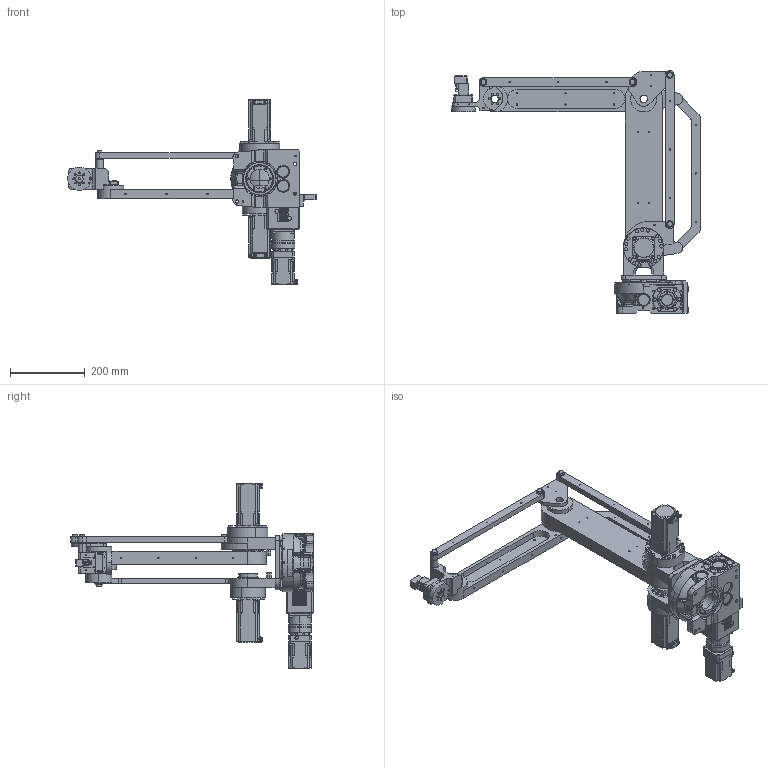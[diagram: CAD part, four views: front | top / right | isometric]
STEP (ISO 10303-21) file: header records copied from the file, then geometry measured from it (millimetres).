
FILE_DESCRIPTION (( 'STEP AP203' ), '1' );
FILE_NAME ('OVR4088K5-V.STEP', '2024-05-24T06:08:38', ( '' ), ( '' ), 'SwSTEP 2.0', 'SolidWorks 2023', '' );
FILE_SCHEMA (( 'CONFIG_CONTROL_DESIGN' ));
Length unit declared in the file: millimetre
Products named in the file (1): OVR4088K5-V
Bounding box: 667.5 x 652 x 499 mm (x, y, z)
Volume: 7258332.8 mm3; surface area: 938204.1 mm2
Topology: 1 solids, 62 shells, 3138 faces, 8168 edges, 5254 vertices
Faces by surface type: cylinder 1369, plane 1225, cone 329, torus 107, bspline 82, sphere 26
Entity records: 120570 total; most frequent: CARTESIAN_POINT 45921, ORIENTED_EDGE 15880, DIRECTION 14788, EDGE_CURVE 7940, AXIS2_PLACEMENT_3D 5505, VERTEX_POINT 5232, LINE 3778, VECTOR 3778
